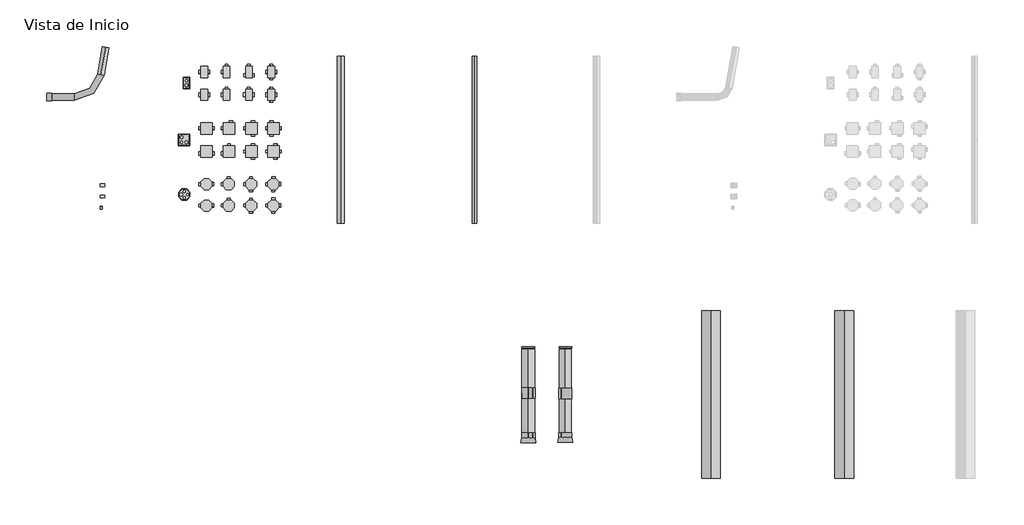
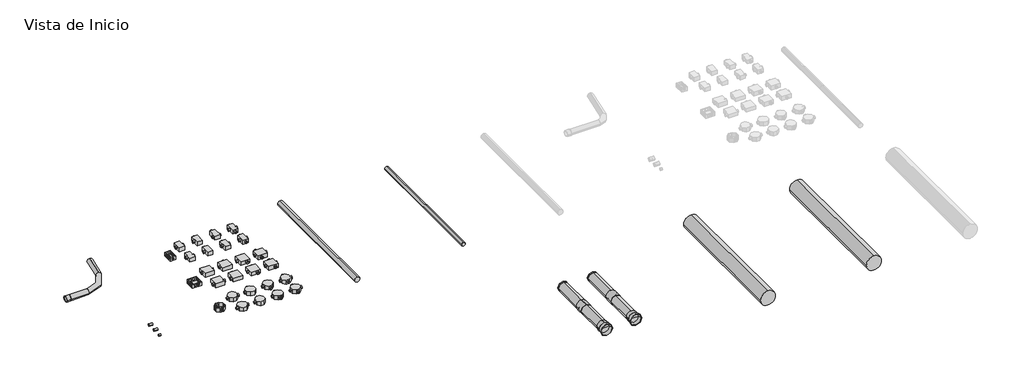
# One storey, part 1 of 2: 104 cable carrier fittings, 8 cable carrier segments.
"""IFC4 building model written with IfcOpenShell, lengths in millimetres."""

from ifc_helpers import new_model, si_unit, point, frame, frame_2d, origin, place, context, project, spatial, circle_curve, trimmed, segment, composite_curve, outline, extrude, transform, mapped, element, save
from components import cable_carrier_fitting_60fd3d04, cable_carrier_fitting_629d5e2b, cable_carrier_fitting_0bd2d3bd, sch40_a225065a, sch40_529ea7d7, sch40_e715ed77, sch40_e125807a, sch40_0bdad339, sch40_e9edfee1, sch40_2f5201ad, sch40_9a32e9d7, sch40_1c53443b, sch40_9d175e18, tdp_cfcb37cc, tdp_9431bb59, tdp_ba480966, tl_5f5f7a51, tl_a7b347dc, tl_4cd5a705, tl_ba489bf2, tl_f0d449e0, tl_b9d03b8a

model = new_model("IFC4")

# Units and contexts
model_context = context("Model", 3, world=origin())
ifc_project = project(units=[si_unit("LENGTHUNIT", "METRE", prefix="MILLI")], contexts=[model_context])

# Site, building, storey
site = spatial("IfcSite", under=ifc_project)
building = spatial("IfcBuilding", under=site)
storey = spatial("IfcBuildingStorey", under=building, Name="Vista de Inicio", Elevation=0.0)

# Cable carrier fittings
placement = place(None, origin())
cable_carrier_fitting_shape = cable_carrier_fitting_60fd3d04(model_context)
element("IfcCableCarrierFitting", 1, ObjectType="PavcoWavin_ConduitFittings_Union : EB y DB", at=placement, inside=storey, context=model_context, shape_type="MappedRepresentation", body=[
    mapped(cable_carrier_fitting_shape, transform((4096.7332292, 519.0610752, 0.0), x_axis=(0.0, -1.0, 0.0), y_axis=(1.0, 0.0, 0.0), z_axis=(0.0, 0.0, 1.0))),
])
cable_carrier_fitting_2_shape = cable_carrier_fitting_629d5e2b(model_context)
element("IfcCableCarrierFitting", 2, ObjectType="PavcoWavin_ConduitFittings_Tapon : EB y DB", at=placement, inside=storey, context=model_context, shape_type="MappedRepresentation", body=[
    mapped(cable_carrier_fitting_2_shape, transform((4096.7332292, 912.8807549, 0.0), x_axis=(0.0, 1.0, 0.0), y_axis=(1.0, 0.0, 0.0), z_axis=(0.0, 0.0, -1.0))),
])
cable_carrier_fitting_3_shape = cable_carrier_fitting_0bd2d3bd(model_context)
element("IfcCableCarrierFitting", 3, ObjectType="PavcoWavin_ConduitFittings_TerminalCampana_Ducto : EB y DB", at=placement, inside=storey, context=model_context, shape_type="MappedRepresentation", body=[
    mapped(cable_carrier_fitting_3_shape, transform((4096.7332292, 119.206607, 0.0), x_axis=(0.0, -1.0, 0.0), y_axis=(1.0, 0.0, 0.0), z_axis=(0.0, 0.0, 1.0))),
])
sch40_shape = sch40_a225065a(model_context)
element("IfcCableCarrierFitting", 4, ObjectType="PavcoWavin_ConduitFittings_ZnoUsarAdaptadorTerminal : SCH40", at=placement, inside=storey, context=model_context, shape_type="MappedRepresentation", body=[
    mapped(sch40_shape, transform((1410.1820166, 2442.2693837, 0.0), x_axis=(0.0, 1.0, 0.0), y_axis=(-1.0, 0.0, 0.0), z_axis=(0.0, 0.0, 1.0))),
])
element("IfcCableCarrierFitting", 5, ObjectType="PavcoWavin_ConduitFittings_ZnoUsarAdaptadorTerminal : SCH40", at=placement, inside=storey, context=model_context, shape_type="MappedRepresentation", body=[
    mapped(sch40_shape, transform((1360.6820166, 2392.7693837, 0.0), x_axis=(-1.0, 0.0, 0.0), y_axis=(0.0, -1.0, 0.0), z_axis=(0.0, 0.0, 1.0))),
])
element("IfcCableCarrierFitting", 6, ObjectType="PavcoWavin_ConduitFittings_ZnoUsarAdaptadorTerminal : SCH40", at=placement, inside=storey, context=model_context, shape_type="MappedRepresentation", body=[
    mapped(sch40_shape, transform((1760.6820166, 2392.7693837, 0.0), x_axis=(-1.0, 0.0, 0.0), y_axis=(0.0, -1.0, 0.0), z_axis=(0.0, 0.0, 1.0))),
])
element("IfcCableCarrierFitting", 7, ObjectType="PavcoWavin_ConduitFittings_ZnoUsarAdaptadorTerminal : SCH40", at=placement, inside=storey, context=model_context, shape_type="MappedRepresentation", body=[
    mapped(sch40_shape, transform((1810.1820166, 2343.2693837, 0.0), x_axis=(0.0, -1.0, 0.0), y_axis=(1.0, 0.0, 0.0), z_axis=(0.0, 0.0, 1.0))),
])
element("IfcCableCarrierFitting", 8, ObjectType="PavcoWavin_ConduitFittings_ZnoUsarAdaptadorTerminal : SCH40", at=placement, inside=storey, context=model_context, shape_type="MappedRepresentation", body=[
    mapped(sch40_shape, transform((1610.1820166, 2442.2693837, 0.0), x_axis=(0.0, 1.0000000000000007, 0.0), y_axis=(-1.0000000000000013, 0.0, 0.0), z_axis=(0.0, 0.0, 1.0000000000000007))),
])
element("IfcCableCarrierFitting", 9, ObjectType="PavcoWavin_ConduitFittings_ZnoUsarAdaptadorTerminal : SCH40", at=placement, inside=storey, context=model_context, shape_type="MappedRepresentation", body=[
    mapped(sch40_shape, transform((1560.6820166, 2392.7693837, 0.0), x_axis=(-1.0000000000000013, 0.0, 0.0), y_axis=(0.0, -1.0000000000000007, 0.0), z_axis=(0.0, 0.0, 1.0000000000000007))),
])
element("IfcCableCarrierFitting", 10, ObjectType="PavcoWavin_ConduitFittings_ZnoUsarAdaptadorTerminal : SCH40", at=placement, inside=storey, context=model_context, shape_type="MappedRepresentation", body=[
    mapped(sch40_shape, transform((1360.6820166, 2892.7174318, 0.0), x_axis=(-1.0, 0.0, 0.0), y_axis=(0.0, -1.0, 0.0), z_axis=(0.0, 0.0, 1.0))),
])
element("IfcCableCarrierFitting", 11, ObjectType="PavcoWavin_ConduitFittings_ZnoUsarAdaptadorTerminal : SCH40", at=placement, inside=storey, context=model_context, shape_type="MappedRepresentation", body=[
    mapped(sch40_shape, transform((1160.6820166, 2892.7174318, 0.0), x_axis=(-1.0, 0.0, 0.0), y_axis=(0.0, -1.0, 0.0), z_axis=(0.0, 0.0, 1.0))),
])
element("IfcCableCarrierFitting", 12, ObjectType="PavcoWavin_ConduitFittings_ZnoUsarAdaptadorTerminal : SCH40", at=placement, inside=storey, context=model_context, shape_type="MappedRepresentation", body=[
    mapped(sch40_shape, transform((1263.7820166, 2892.7174318, 0.0), x_axis=(1.0, 0.0, 0.0), y_axis=(0.0, 1.0, 0.0), z_axis=(0.0, 0.0, 1.0))),
])
element("IfcCableCarrierFitting", 13, ObjectType="PavcoWavin_ConduitFittings_ZnoUsarAdaptadorTerminal : SCH40", at=placement, inside=storey, context=model_context, shape_type="MappedRepresentation", body=[
    mapped(sch40_shape, transform((1560.6820166, 2892.7174318, 0.0), x_axis=(-1.0000000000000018, 0.0, 0.0), y_axis=(0.0, 1.0000000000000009, 0.0), z_axis=(0.0, 0.0, -1.0000000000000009))),
])
element("IfcCableCarrierFitting", 14, ObjectType="PavcoWavin_ConduitFittings_ZnoUsarAdaptadorTerminal : SCH40", at=placement, inside=storey, context=model_context, shape_type="MappedRepresentation", body=[
    mapped(sch40_shape, transform((1863.7820166, 2892.7174318, 0.0), x_axis=(1.0, 0.0, 0.0), y_axis=(0.0, 1.0, 0.0), z_axis=(0.0, 0.0, 1.0))),
])
element("IfcCableCarrierFitting", 15, ObjectType="PavcoWavin_ConduitFittings_ZnoUsarAdaptadorTerminal : SCH40", at=placement, inside=storey, context=model_context, shape_type="MappedRepresentation", body=[
    mapped(sch40_shape, transform((1760.6820166, 2892.7174318, 0.0), x_axis=(-1.0, 0.0, 0.0), y_axis=(0.0, -1.0, 0.0), z_axis=(0.0, 0.0, 1.0))),
])
element("IfcCableCarrierFitting", 16, ObjectType="PavcoWavin_ConduitFittings_ZnoUsarAdaptadorTerminal : SCH40", at=placement, inside=storey, context=model_context, shape_type="MappedRepresentation", body=[
    mapped(sch40_shape, transform((1590.6820166, 3449.0171975, 0.0), x_axis=(0.0, 1.0, 0.0), y_axis=(-1.0, 0.0, 0.0), z_axis=(0.0, 0.0, 1.0))),
])
element("IfcCableCarrierFitting", 17, ObjectType="PavcoWavin_ConduitFittings_ZnoUsarAdaptadorTerminal : SCH40", at=placement, inside=storey, context=model_context, shape_type="MappedRepresentation", body=[
    mapped(sch40_shape, transform((1620.6820166, 3369.5171975, 0.0), x_axis=(1.0, 0.0, 0.0), y_axis=(0.0, 1.0, 0.0), z_axis=(0.0, 0.0, 1.0))),
])
element("IfcCableCarrierFitting", 18, ObjectType="PavcoWavin_ConduitFittings_ZnoUsarAdaptadorTerminal : SCH40", at=placement, inside=storey, context=model_context, shape_type="MappedRepresentation", body=[
    mapped(sch40_shape, transform((1560.6820166, 3369.5171975, 0.0), x_axis=(-1.0, 0.0, 0.0), y_axis=(0.0, -1.0, 0.0), z_axis=(0.0, 0.0, 1.0))),
])
element("IfcCableCarrierFitting", 19, ObjectType="PavcoWavin_ConduitFittings_ZnoUsarAdaptadorTerminal : SCH40", at=placement, inside=storey, context=model_context, shape_type="MappedRepresentation", body=[
    mapped(sch40_shape, transform((1790.6820166, 3346.0171975, 0.0), x_axis=(0.0, -1.0000000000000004, 0.0), y_axis=(1.0000000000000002, 0.0, 0.0), z_axis=(0.0, 0.0, 1.0000000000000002))),
])
element("IfcCableCarrierFitting", 20, ObjectType="PavcoWavin_ConduitFittings_ZnoUsarAdaptadorTerminal : SCH40", at=placement, inside=storey, context=model_context, shape_type="MappedRepresentation", body=[
    mapped(sch40_shape, transform((1790.6820166, 3449.0171975, 0.0), x_axis=(0.0, 1.0000000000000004, 0.0), y_axis=(-1.0000000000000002, 0.0, 0.0), z_axis=(0.0, 0.0, 1.0000000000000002))),
])
element("IfcCableCarrierFitting", 21, ObjectType="PavcoWavin_ConduitFittings_ZnoUsarAdaptadorTerminal : SCH40", at=placement, inside=storey, context=model_context, shape_type="MappedRepresentation", body=[
    mapped(sch40_shape, transform((1390.6820166, 3449.0171975, 0.0), x_axis=(0.0, 1.0, 0.0), y_axis=(-1.0, 0.0, 0.0), z_axis=(0.0, 0.0, 1.0))),
])
element("IfcCableCarrierFitting", 22, ObjectType="PavcoWavin_ConduitFittings_ZnoUsarAdaptadorTerminal : SCH40", at=placement, inside=storey, context=model_context, shape_type="MappedRepresentation", body=[
    mapped(sch40_shape, transform((1160.6820166, 2392.7693837, 0.0), x_axis=(-1.0, 0.0, 0.0), y_axis=(0.0, -1.0, 0.0), z_axis=(0.0, 0.0, 1.0))),
])
sch40_2_shape = sch40_529ea7d7(model_context)
element("IfcCableCarrierFitting", 23, ObjectType="PavcoWavin_ConduitFittings_CajaOctagonal_Codo : SCH40", at=placement, inside=storey, context=model_context, shape_type="MappedRepresentation", body=[
    mapped(sch40_2_shape, transform((1410.1820166, 2392.7693837, 0.0), x_axis=(1.0, 0.0, 0.0), y_axis=(0.0, 1.0, 0.0), z_axis=(0.0, 0.0, 1.0))),
])
element("IfcCableCarrierFitting", 24, ObjectType="PavcoWavin_ConduitFittings_CajaOctagonal_Tee : SCH40", at=placement, inside=storey, context=model_context, shape_type="MappedRepresentation", body=[
    mapped(sch40_2_shape, transform((1610.1820166, 2392.7693837, 0.0), x_axis=(0.0, -1.0000000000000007, 0.0), y_axis=(1.0000000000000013, 0.0, 0.0), z_axis=(0.0, 0.0, 1.0000000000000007))),
])
element("IfcCableCarrierFitting", 25, ObjectType="PavcoWavin_ConduitFittings_CajaOctagonal_Cruz : SCH40", at=placement, inside=storey, context=model_context, shape_type="MappedRepresentation", body=[
    mapped(sch40_2_shape, transform((1810.1820166, 2392.7693837, 0.0), x_axis=(1.0, 0.0, 0.0), y_axis=(0.0, 1.0, 0.0), z_axis=(0.0, 0.0, 1.0))),
])
sch40_3_shape = sch40_e715ed77(model_context)
element("IfcCableCarrierFitting", 26, ObjectType="PavcoWavin_ConduitFittings_AdaptadorTerminal_Union : SCH40", at=placement, inside=storey, context=model_context, shape_type="MappedRepresentation", body=[
    mapped(sch40_3_shape, transform((273.2288935, 2181.3199499, 0.0), x_axis=(1.0, 0.0, 0.0), y_axis=(0.0, 1.0, 0.0), z_axis=(0.0, 0.0, 1.0))),
])
sch40_4_shape = sch40_e125807a(model_context)
element("IfcCableCarrierFitting", 27, ObjectType="PavcoWavin_ConduitFittings_CajaDoble_Codo : SCH40", at=placement, inside=storey, context=model_context, shape_type="MappedRepresentation", body=[
    mapped(sch40_4_shape, transform((1429.7320166, 2892.7174318, 0.0), x_axis=(1.0, 0.0, 0.0), y_axis=(0.0, 1.0, 0.0), z_axis=(0.0, 0.0, 1.0))),
])
sch40_5_shape = sch40_0bdad339(model_context)
element("IfcCableCarrierFitting", 28, ObjectType="PavcoWavin_ConduitFittings_CajaDoble_Cruz : SCH40", at=placement, inside=storey, context=model_context, shape_type="MappedRepresentation", body=[
    mapped(sch40_5_shape, transform((1794.7320166, 2892.7174318, 0.0), x_axis=(0.0, 1.0, 0.0), y_axis=(-1.0, 0.0, 0.0), z_axis=(0.0, 0.0, 1.0))),
])
element("IfcCableCarrierFitting", 29, ObjectType="PavcoWavin_ConduitFittings_CajaDoble_Tee : SCH40", at=placement, inside=storey, context=model_context, shape_type="MappedRepresentation", body=[
    mapped(sch40_5_shape, transform((1629.7320166, 2892.7174318, 0.0), x_axis=(0.0, 1.0000000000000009, 0.0), y_axis=(1.0000000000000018, 0.0, 0.0), z_axis=(0.0, 0.0, -1.0000000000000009))),
])
sch40_6_shape = sch40_e9edfee1(model_context)
element("IfcCableCarrierFitting", 30, ObjectType="PavcoWavin_ConduitFittings_CajaDoble_Union : SCH40", at=placement, inside=storey, context=model_context, shape_type="MappedRepresentation", body=[
    mapped(sch40_6_shape, transform((1212.2320166, 2892.7174318, 0.0), x_axis=(-1.0, 0.0, 0.0), y_axis=(0.0, -1.0, 0.0), z_axis=(0.0, 0.0, 1.0))),
])
element("IfcCableCarrierFitting", 31, ObjectType="PavcoWavin_ConduitFittings_CajaOctagonal_Transicion : SCH40", at=placement, inside=storey, context=model_context, shape_type="MappedRepresentation", body=[
    mapped(sch40_2_shape, transform((1210.1820166, 2392.7693837, 0.0), x_axis=(1.0, 0.0, 0.0), y_axis=(0.0, 1.0, 0.0), z_axis=(0.0, 0.0, 1.0))),
])
sch40_7_shape = sch40_2f5201ad(model_context)
element("IfcCableCarrierFitting", 32, ObjectType="PavcoWavin_ConduitFittings_CajaSencilla_Codo : SCH40", at=placement, inside=storey, context=model_context, shape_type="MappedRepresentation", body=[
    mapped(sch40_7_shape, transform((1390.6820166, 3397.5171975, 0.0), x_axis=(1.0, 0.0, 0.0), y_axis=(0.0, 1.0, 0.0), z_axis=(0.0, 0.0, 1.0))),
])
element("IfcCableCarrierFitting", 33, ObjectType="PavcoWavin_ConduitFittings_CajaSencilla_Cruz : SCH40", at=placement, inside=storey, context=model_context, shape_type="MappedRepresentation", body=[
    mapped(sch40_7_shape, transform((1790.6820166, 3397.5171975, 0.0), x_axis=(1.0000000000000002, 0.0, 0.0), y_axis=(0.0, 1.0000000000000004, 0.0), z_axis=(0.0, 0.0, 1.0000000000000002))),
])
sch40_8_shape = sch40_9a32e9d7(model_context)
element("IfcCableCarrierFitting", 34, ObjectType="PavcoWavin_ConduitFittings_CajaSencilla_Tee : SCH40", at=placement, inside=storey, context=model_context, shape_type="MappedRepresentation", body=[
    mapped(sch40_8_shape, transform((1590.6820166, 3369.5171975, 0.0), x_axis=(-1.0, 0.0, 0.0), y_axis=(0.0, -1.0, 0.0), z_axis=(0.0, 0.0, 1.0))),
])
sch40_9_shape = sch40_1c53443b(model_context)
element("IfcCableCarrierFitting", 35, ObjectType="PavcoWavin_ConduitFittings_ZnoUsarAdaptadorTerminal : SCH40", at=placement, inside=storey, context=model_context, shape_type="MappedRepresentation", body=[
    mapped(sch40_9_shape, transform((1859.6820166, 2392.7693837, 0.0), x_axis=(1.0, 0.0, 0.0), y_axis=(0.0, 1.0, 0.0), z_axis=(0.0, 0.0, 1.0))),
])
element("IfcCableCarrierFitting", 36, ObjectType="PavcoWavin_ConduitFittings_ZnoUsarAdaptadorTerminal : SCH40", at=placement, inside=storey, context=model_context, shape_type="MappedRepresentation", body=[
    mapped(sch40_9_shape, transform((1810.1820166, 2442.2693837, 0.0), x_axis=(0.0, 1.0, 0.0), y_axis=(-1.0, 0.0, 0.0), z_axis=(0.0, 0.0, 1.0))),
])
element("IfcCableCarrierFitting", 37, ObjectType="PavcoWavin_ConduitFittings_ZnoUsarAdaptadorTerminal : SCH40", at=placement, inside=storey, context=model_context, shape_type="MappedRepresentation", body=[
    mapped(sch40_9_shape, transform((1610.1820166, 2343.2693837, 0.0), x_axis=(0.0, -1.0000000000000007, 0.0), y_axis=(1.0000000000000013, 0.0, 0.0), z_axis=(0.0, 0.0, 1.0000000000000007))),
])
element("IfcCableCarrierFitting", 38, ObjectType="PavcoWavin_ConduitFittings_ZnoUsarAdaptadorTerminal : SCH40", at=placement, inside=storey, context=model_context, shape_type="MappedRepresentation", body=[
    mapped(sch40_9_shape, transform((1429.7320166, 2944.2674318, 0.0), x_axis=(0.0, 1.0, 0.0), y_axis=(-1.0, 0.0, 0.0), z_axis=(0.0, 0.0, 1.0))),
])
element("IfcCableCarrierFitting", 39, ObjectType="PavcoWavin_ConduitFittings_ZnoUsarAdaptadorTerminal : SCH40", at=placement, inside=storey, context=model_context, shape_type="MappedRepresentation", body=[
    mapped(sch40_9_shape, transform((1629.7320166, 2944.2674318, 0.0), x_axis=(0.0, 1.0000000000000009, 0.0), y_axis=(1.0000000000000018, 0.0, 0.0), z_axis=(0.0, 0.0, -1.0000000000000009))),
])
element("IfcCableCarrierFitting", 40, ObjectType="PavcoWavin_ConduitFittings_ZnoUsarAdaptadorTerminal : SCH40", at=placement, inside=storey, context=model_context, shape_type="MappedRepresentation", body=[
    mapped(sch40_9_shape, transform((1629.7320166, 2841.1674318, 0.0), x_axis=(0.0, -1.0000000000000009, 0.0), y_axis=(-1.0000000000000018, 0.0, 0.0), z_axis=(0.0, 0.0, -1.0000000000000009))),
])
element("IfcCableCarrierFitting", 41, ObjectType="PavcoWavin_ConduitFittings_ZnoUsarAdaptadorTerminal : SCH40", at=placement, inside=storey, context=model_context, shape_type="MappedRepresentation", body=[
    mapped(sch40_9_shape, transform((1794.7320166, 2944.2674318, 0.0), x_axis=(0.0, 1.0, 0.0), y_axis=(-1.0, 0.0, 0.0), z_axis=(0.0, 0.0, 1.0))),
])
element("IfcCableCarrierFitting", 42, ObjectType="PavcoWavin_ConduitFittings_ZnoUsarAdaptadorTerminal : SCH40", at=placement, inside=storey, context=model_context, shape_type="MappedRepresentation", body=[
    mapped(sch40_9_shape, transform((1794.7320166, 2841.1674318, 0.0), x_axis=(0.0, -1.0, 0.0), y_axis=(1.0, 0.0, 0.0), z_axis=(0.0, 0.0, 1.0))),
])
element("IfcCableCarrierFitting", 43, ObjectType="PavcoWavin_ConduitFittings_ZnoUsarAdaptadorTerminal : SCH40", at=placement, inside=storey, context=model_context, shape_type="MappedRepresentation", body=[
    mapped(sch40_9_shape, transform((1760.6820166, 3397.5171975, 0.0), x_axis=(-1.0000000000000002, 0.0, 0.0), y_axis=(0.0, -1.0000000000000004, 0.0), z_axis=(0.0, 0.0, 1.0000000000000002))),
])
element("IfcCableCarrierFitting", 44, ObjectType="PavcoWavin_ConduitFittings_ZnoUsarAdaptadorTerminal : SCH40", at=placement, inside=storey, context=model_context, shape_type="MappedRepresentation", body=[
    mapped(sch40_9_shape, transform((1820.6820166, 3397.5171975, 0.0), x_axis=(1.0000000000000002, 0.0, 0.0), y_axis=(0.0, 1.0000000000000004, 0.0), z_axis=(0.0, 0.0, 1.0000000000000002))),
])
element("IfcCableCarrierFitting", 45, ObjectType="PavcoWavin_ConduitFittings_ZnoUsarAdaptadorTerminal : SCH40", at=placement, inside=storey, context=model_context, shape_type="MappedRepresentation", body=[
    mapped(sch40_9_shape, transform((1360.6820166, 3397.5171975, 0.0), x_axis=(-1.0, 0.0, 0.0), y_axis=(0.0, -1.0, 0.0), z_axis=(0.0, 0.0, 1.0))),
])
element("IfcCableCarrierFitting", 46, ObjectType="PavcoWavin_ConduitFittings_ZnoUsarAdaptadorTerminal : SCH40", at=placement, inside=storey, context=model_context, shape_type="MappedRepresentation", body=[
    mapped(sch40_9_shape, transform((1160.6820166, 3397.5171975, 0.0), x_axis=(-1.0, 0.0, 0.0), y_axis=(0.0, -1.0, 0.0), z_axis=(0.0, 0.0, 1.0))),
])
element("IfcCableCarrierFitting", 47, ObjectType="PavcoWavin_ConduitFittings_ZnoUsarAdaptadorTerminal : SCH40", at=placement, inside=storey, context=model_context, shape_type="MappedRepresentation", body=[
    mapped(sch40_9_shape, transform((1220.6820166, 3397.5171975, 0.0), x_axis=(1.0, 0.0, 0.0), y_axis=(0.0, 1.0, 0.0), z_axis=(0.0, 0.0, 1.0))),
])
element("IfcCableCarrierFitting", 48, ObjectType="PavcoWavin_ConduitFittings_ZnoUsarAdaptadorTerminal : SCH40", at=placement, inside=storey, context=model_context, shape_type="MappedRepresentation", body=[
    mapped(sch40_9_shape, transform((1259.6820166, 2392.7693837, 0.0), x_axis=(1.0, 0.0, 0.0), y_axis=(0.0, 1.0, 0.0), z_axis=(0.0, 0.0, 1.0))),
])
element("IfcCableCarrierFitting", 49, ObjectType="PavcoWavin_ConduitFittings_CajaSencilla_Union : SCH40", at=placement, inside=storey, context=model_context, shape_type="MappedRepresentation", body=[
    mapped(sch40_7_shape, transform((1190.6820166, 3397.5171975, 0.0), x_axis=(-1.0, 0.0, 0.0), y_axis=(0.0, -1.0, 0.0), z_axis=(0.0, 0.0, 1.0))),
])
sch40_10_shape = sch40_9d175e18(model_context)
element("IfcCableCarrierFitting", 50, ObjectType="PavcoWavin_ConduitFittings_Union : SCH40", at=placement, inside=storey, context=model_context, shape_type="MappedRepresentation", body=[
    mapped(sch40_10_shape, transform((277.6388935, 2281.3199499, 0.0), x_axis=(-1.0, 0.0, 0.0), y_axis=(0.0, -1.0, 0.0), z_axis=(0.0, 0.0, 1.0))),
])
tdp_shape = tdp_cfcb37cc(model_context)
element("IfcCableCarrierFitting", 51, ObjectType="PavcoWavin_ConduitFittings_Union : TDP", at=placement, inside=storey, context=model_context, shape_type="MappedRepresentation", body=[
    mapped(tdp_shape, transform((4428.9885381, 515.8860752, 0.0), x_axis=(0.0, -1.0, 0.0), y_axis=(1.0, 0.0, 0.0), z_axis=(0.0, 0.0, 1.0))),
])
tdp_2_shape = tdp_9431bb59(model_context)
element("IfcCableCarrierFitting", 52, ObjectType="PavcoWavin_ConduitFittings_Tapon : TDP", at=placement, inside=storey, context=model_context, shape_type="MappedRepresentation", body=[
    mapped(tdp_2_shape, transform((4428.9885381, 912.8807549, 0.0), x_axis=(0.0, 1.0, 0.0), y_axis=(1.0, 0.0, 0.0), z_axis=(0.0, 0.0, -1.0))),
])
tdp_3_shape = tdp_ba480966(model_context)
element("IfcCableCarrierFitting", 53, ObjectType="PavcoWavin_ConduitFittings_TerminalCampana_Ducto : TDP", at=placement, inside=storey, context=model_context, shape_type="MappedRepresentation", body=[
    mapped(tdp_3_shape, transform((4428.9885381, 122.381607, 0.0), x_axis=(0.0, -1.0, 0.0), y_axis=(1.0, 0.0, 0.0), z_axis=(0.0, 0.0, 1.0))),
])
element("IfcCableCarrierFitting", 54, ObjectType="PavcoWavin_ConduitFittings_ZnoUsarAdaptadorTerminal : TL", at=placement, inside=storey, context=model_context, shape_type="MappedRepresentation", body=[
    mapped(sch40_shape, transform((1410.1820166, 2249.705647, 0.0), x_axis=(0.0, 1.0, 0.0), y_axis=(-1.0, 0.0, 0.0), z_axis=(0.0, 0.0, 1.0))),
])
element("IfcCableCarrierFitting", 55, ObjectType="PavcoWavin_ConduitFittings_ZnoUsarAdaptadorTerminal : TL", at=placement, inside=storey, context=model_context, shape_type="MappedRepresentation", body=[
    mapped(sch40_shape, transform((1360.6820166, 2200.205647, 0.0), x_axis=(-1.0, 0.0, 0.0), y_axis=(0.0, -1.0, 0.0), z_axis=(0.0, 0.0, 1.0))),
])
element("IfcCableCarrierFitting", 56, ObjectType="PavcoWavin_ConduitFittings_ZnoUsarAdaptadorTerminal : TL", at=placement, inside=storey, context=model_context, shape_type="MappedRepresentation", body=[
    mapped(sch40_shape, transform((1760.6820166, 2200.205647, 0.0), x_axis=(-1.0, 0.0, 0.0), y_axis=(0.0, -1.0, 0.0), z_axis=(0.0, 0.0, 1.0))),
])
element("IfcCableCarrierFitting", 57, ObjectType="PavcoWavin_ConduitFittings_ZnoUsarAdaptadorTerminal : TL", at=placement, inside=storey, context=model_context, shape_type="MappedRepresentation", body=[
    mapped(sch40_shape, transform((1810.1820166, 2150.705647, 0.0), x_axis=(0.0, -1.0, 0.0), y_axis=(1.0, 0.0, 0.0), z_axis=(0.0, 0.0, 1.0))),
])
element("IfcCableCarrierFitting", 58, ObjectType="PavcoWavin_ConduitFittings_ZnoUsarAdaptadorTerminal : TL", at=placement, inside=storey, context=model_context, shape_type="MappedRepresentation", body=[
    mapped(sch40_shape, transform((1610.1820166, 2249.705647, 0.0), x_axis=(0.0, 1.0000000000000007, 0.0), y_axis=(-1.0000000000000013, 0.0, 0.0), z_axis=(0.0, 0.0, 1.0000000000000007))),
])
element("IfcCableCarrierFitting", 59, ObjectType="PavcoWavin_ConduitFittings_ZnoUsarAdaptadorTerminal : TL", at=placement, inside=storey, context=model_context, shape_type="MappedRepresentation", body=[
    mapped(sch40_shape, transform((1560.6820166, 2200.205647, 0.0), x_axis=(-1.0000000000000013, 0.0, 0.0), y_axis=(0.0, -1.0000000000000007, 0.0), z_axis=(0.0, 0.0, 1.0000000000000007))),
])
element("IfcCableCarrierFitting", 60, ObjectType="PavcoWavin_ConduitFittings_ZnoUsarAdaptadorTerminal : TL", at=placement, inside=storey, context=model_context, shape_type="MappedRepresentation", body=[
    mapped(sch40_shape, transform((1412.2320166, 2736.9594925, 0.0), x_axis=(0.0, 1.0, 0.0), y_axis=(-1.0, 0.0, 0.0), z_axis=(0.0, 0.0, 1.0))),
])
element("IfcCableCarrierFitting", 61, ObjectType="PavcoWavin_ConduitFittings_ZnoUsarAdaptadorTerminal : TL", at=placement, inside=storey, context=model_context, shape_type="MappedRepresentation", body=[
    mapped(sch40_shape, transform((1760.6820166, 2685.4094925, 0.0), x_axis=(-1.0, 0.0, 0.0), y_axis=(0.0, 1.0, 0.0), z_axis=(0.0, 0.0, -1.0))),
])
element("IfcCableCarrierFitting", 62, ObjectType="PavcoWavin_ConduitFittings_ZnoUsarAdaptadorTerminal : TL", at=placement, inside=storey, context=model_context, shape_type="MappedRepresentation", body=[
    mapped(sch40_shape, transform((1863.7820166, 2685.4094925, 0.0), x_axis=(1.0, 0.0, 0.0), y_axis=(0.0, -1.0, 0.0), z_axis=(0.0, 0.0, -1.0))),
])
element("IfcCableCarrierFitting", 63, ObjectType="PavcoWavin_ConduitFittings_ZnoUsarAdaptadorTerminal : TL", at=placement, inside=storey, context=model_context, shape_type="MappedRepresentation", body=[
    mapped(sch40_shape, transform((1560.6820166, 2685.4094925, 0.0), x_axis=(-1.0, 0.0, 0.0), y_axis=(0.0, 1.0, 0.0), z_axis=(0.0, 0.0, -1.0))),
])
element("IfcCableCarrierFitting", 64, ObjectType="PavcoWavin_ConduitFittings_ZnoUsarAdaptadorTerminal : TL", at=placement, inside=storey, context=model_context, shape_type="MappedRepresentation", body=[
    mapped(sch40_shape, transform((1390.6820166, 3245.2693837, 0.0), x_axis=(0.0, 1.0, 0.0), y_axis=(-1.0, 0.0, 0.0), z_axis=(0.0, 0.0, 1.0))),
])
element("IfcCableCarrierFitting", 65, ObjectType="PavcoWavin_ConduitFittings_ZnoUsarAdaptadorTerminal : TL", at=placement, inside=storey, context=model_context, shape_type="MappedRepresentation", body=[
    mapped(sch40_shape, transform((1590.6820166, 3245.2693837, 0.0), x_axis=(0.0, 1.0000000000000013, 0.0), y_axis=(-1.0000000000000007, 0.0, 0.0), z_axis=(0.0, 0.0, 1.0000000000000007))),
])
element("IfcCableCarrierFitting", 66, ObjectType="PavcoWavin_ConduitFittings_ZnoUsarAdaptadorTerminal : TL", at=placement, inside=storey, context=model_context, shape_type="MappedRepresentation", body=[
    mapped(sch40_shape, transform((1790.6820166, 3142.2693837, 0.0), x_axis=(0.0, -1.0000000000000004, 0.0), y_axis=(1.0000000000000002, 0.0, 0.0), z_axis=(0.0, 0.0, 1.0000000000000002))),
])
element("IfcCableCarrierFitting", 67, ObjectType="PavcoWavin_ConduitFittings_ZnoUsarAdaptadorTerminal : TL", at=placement, inside=storey, context=model_context, shape_type="MappedRepresentation", body=[
    mapped(sch40_shape, transform((1790.6820166, 3245.2693837, 0.0), x_axis=(0.0, 1.0000000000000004, 0.0), y_axis=(-1.0000000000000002, 0.0, 0.0), z_axis=(0.0, 0.0, 1.0000000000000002))),
])
element("IfcCableCarrierFitting", 68, ObjectType="PavcoWavin_ConduitFittings_ZnoUsarAdaptadorTerminal : TL", at=placement, inside=storey, context=model_context, shape_type="MappedRepresentation", body=[
    mapped(sch40_shape, transform((1160.6820166, 2200.205647, 0.0), x_axis=(-1.0, 0.0, 0.0), y_axis=(0.0, -1.0, 0.0), z_axis=(0.0, 0.0, 1.0))),
])
element("IfcCableCarrierFitting", 69, ObjectType="PavcoWavin_ConduitFittings_CajaOctagonal_Codo : TL", at=placement, inside=storey, context=model_context, shape_type="MappedRepresentation", body=[
    mapped(sch40_2_shape, transform((1410.1820166, 2200.205647, 0.0), x_axis=(1.0, 0.0, 0.0), y_axis=(0.0, 1.0, 0.0), z_axis=(0.0, 0.0, 1.0))),
])
element("IfcCableCarrierFitting", 70, ObjectType="PavcoWavin_ConduitFittings_CajaOctagonal_Tee : TL", at=placement, inside=storey, context=model_context, shape_type="MappedRepresentation", body=[
    mapped(sch40_2_shape, transform((1610.1820166, 2200.205647, 0.0), x_axis=(0.0, -1.0000000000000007, 0.0), y_axis=(1.0000000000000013, 0.0, 0.0), z_axis=(0.0, 0.0, 1.0000000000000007))),
])
element("IfcCableCarrierFitting", 71, ObjectType="PavcoWavin_ConduitFittings_CajaOctagonal_Cruz : TL", at=placement, inside=storey, context=model_context, shape_type="MappedRepresentation", body=[
    mapped(sch40_2_shape, transform((1810.1820166, 2200.205647, 0.0), x_axis=(1.0, 0.0, 0.0), y_axis=(0.0, 1.0, 0.0), z_axis=(0.0, 0.0, 1.0))),
])
tl_shape = tl_5f5f7a51(model_context)
element("IfcCableCarrierFitting", 72, ObjectType="PavcoWavin_ConduitFittings_CajaSencilla_Multipuerto : TL", at=placement, inside=storey, context=model_context, shape_type="MappedRepresentation", body=[
    mapped(tl_shape, transform((1030.6170203, 3298.9939293, 0.0), x_axis=(0.0, 1.0000000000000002, 0.0), y_axis=(-1.0000000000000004, 0.0, 0.0), z_axis=(0.0, 0.0, 1.0000000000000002))),
])
tl_2_shape = tl_a7b347dc(model_context)
element("IfcCableCarrierFitting", 73, ObjectType="PavcoWavin_ConduitFittings_CajaOctagonal_Multipuerto : TL", at=placement, inside=storey, context=model_context, shape_type="MappedRepresentation", body=[
    mapped(tl_2_shape, transform((1011.1170203, 2299.205647, 0.0), x_axis=(1.0, 0.0, 0.0), y_axis=(0.0, 1.0, 0.0), z_axis=(0.0, 0.0, 1.0))),
])
tl_3_shape = tl_4cd5a705(model_context)
element("IfcCableCarrierFitting", 74, ObjectType="PavcoWavin_ConduitFittings_CajaDoble_Codo : TL", at=placement, inside=storey, context=model_context, shape_type="MappedRepresentation", body=[
    mapped(tl_3_shape, transform((1412.2320166, 2667.9094925, 0.0), x_axis=(1.0, 0.0, 0.0), y_axis=(0.0, 1.0, 0.0), z_axis=(0.0, 0.0, 1.0))),
])
element("IfcCableCarrierFitting", 75, ObjectType="PavcoWavin_ConduitFittings_CajaDoble_Cruz : TL", at=placement, inside=storey, context=model_context, shape_type="MappedRepresentation", body=[
    mapped(sch40_5_shape, transform((1829.7320166, 2685.4094925, 0.0), x_axis=(0.0, 1.0, 0.0), y_axis=(1.0, 0.0, 0.0), z_axis=(0.0, 0.0, -1.0))),
])
tl_4_shape = tl_ba489bf2(model_context)
element("IfcCableCarrierFitting", 76, ObjectType="PavcoWavin_ConduitFittings_CajaDoble_Multipuerto : TL", at=placement, inside=storey, context=model_context, shape_type="MappedRepresentation", body=[
    mapped(tl_4_shape, transform((1009.0670203, 2790.2624699, 0.0), x_axis=(1.0, 0.0, 0.0), y_axis=(0.0, 1.0, 0.0), z_axis=(0.0, 0.0, 1.0))),
])
element("IfcCableCarrierFitting", 77, ObjectType="PavcoWavin_ConduitFittings_CajaDoble_Tee : TL", at=placement, inside=storey, context=model_context, shape_type="MappedRepresentation", body=[
    mapped(sch40_5_shape, transform((1629.7320166, 2685.4094925, 0.0), x_axis=(0.0, 1.0, 0.0), y_axis=(1.0, 0.0, 0.0), z_axis=(0.0, 0.0, -1.0))),
])
element("IfcCableCarrierFitting", 78, ObjectType="PavcoWavin_ConduitFittings_CajaDoble_Union : TL", at=placement, inside=storey, context=model_context, shape_type="MappedRepresentation", body=[
    mapped(tl_3_shape, transform((1212.2320166, 2667.9094925, 0.0), x_axis=(1.0, 0.0, 0.0), y_axis=(0.0, 1.0000000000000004, 0.0), z_axis=(0.0, 0.0, 1.0000000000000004))),
])
element("IfcCableCarrierFitting", 79, ObjectType="PavcoWavin_ConduitFittings_CajaOctagonal_Transicion : TL", at=placement, inside=storey, context=model_context, shape_type="MappedRepresentation", body=[
    mapped(sch40_2_shape, transform((1210.1820166, 2200.205647, 0.0), x_axis=(1.0, 0.0, 0.0), y_axis=(0.0, 1.0, 0.0), z_axis=(0.0, 0.0, 1.0))),
])
element("IfcCableCarrierFitting", 80, ObjectType="PavcoWavin_ConduitFittings_CajaSencilla_Codo : TL", at=placement, inside=storey, context=model_context, shape_type="MappedRepresentation", body=[
    mapped(sch40_7_shape, transform((1390.6820166, 3193.7693837, 0.0), x_axis=(1.0, 0.0, 0.0), y_axis=(0.0, 1.0, 0.0), z_axis=(0.0, 0.0, 1.0))),
])
element("IfcCableCarrierFitting", 81, ObjectType="PavcoWavin_ConduitFittings_CajaSencilla_Cruz : TL", at=placement, inside=storey, context=model_context, shape_type="MappedRepresentation", body=[
    mapped(sch40_7_shape, transform((1790.6820166, 3193.7693837, 0.0), x_axis=(1.0000000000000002, 0.0, 0.0), y_axis=(0.0, 1.0000000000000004, 0.0), z_axis=(0.0, 0.0, 1.0000000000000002))),
])
element("IfcCableCarrierFitting", 82, ObjectType="PavcoWavin_ConduitFittings_CajaSencilla_Tee : TL", at=placement, inside=storey, context=model_context, shape_type="MappedRepresentation", body=[
    mapped(sch40_7_shape, transform((1590.6820166, 3193.7693837, 0.0), x_axis=(-1.0000000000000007, 0.0, 0.0), y_axis=(0.0, -1.0000000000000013, 0.0), z_axis=(0.0, 0.0, 1.0000000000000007))),
])
element("IfcCableCarrierFitting", 83, ObjectType="PavcoWavin_ConduitFittings_ZnoUsarAdaptadorTerminal : TL", at=placement, inside=storey, context=model_context, shape_type="MappedRepresentation", body=[
    mapped(sch40_9_shape, transform((1859.6820166, 2200.205647, 0.0), x_axis=(1.0, 0.0, 0.0), y_axis=(0.0, 1.0, 0.0), z_axis=(0.0, 0.0, 1.0))),
])
element("IfcCableCarrierFitting", 84, ObjectType="PavcoWavin_ConduitFittings_ZnoUsarAdaptadorTerminal : TL", at=placement, inside=storey, context=model_context, shape_type="MappedRepresentation", body=[
    mapped(sch40_9_shape, transform((1810.1820166, 2249.705647, 0.0), x_axis=(0.0, 1.0, 0.0), y_axis=(-1.0, 0.0, 0.0), z_axis=(0.0, 0.0, 1.0))),
])
element("IfcCableCarrierFitting", 85, ObjectType="PavcoWavin_ConduitFittings_ZnoUsarAdaptadorTerminal : TL", at=placement, inside=storey, context=model_context, shape_type="MappedRepresentation", body=[
    mapped(sch40_9_shape, transform((1610.1820166, 2150.705647, 0.0), x_axis=(0.0, -1.0000000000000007, 0.0), y_axis=(1.0000000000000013, 0.0, 0.0), z_axis=(0.0, 0.0, 1.0000000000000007))),
])
element("IfcCableCarrierFitting", 86, ObjectType="PavcoWavin_ConduitFittings_ZnoUsarAdaptadorTerminal : TL", at=placement, inside=storey, context=model_context, shape_type="MappedRepresentation", body=[
    mapped(sch40_9_shape, transform((1360.6820166, 2667.9094925, 0.0), x_axis=(-1.0, 0.0, 0.0), y_axis=(0.0, -1.0, 0.0), z_axis=(0.0, 0.0, 1.0))),
])
element("IfcCableCarrierFitting", 87, ObjectType="PavcoWavin_ConduitFittings_ZnoUsarAdaptadorTerminal : TL", at=placement, inside=storey, context=model_context, shape_type="MappedRepresentation", body=[
    mapped(sch40_9_shape, transform((1263.7820166, 2667.9094925, 0.0), x_axis=(1.0, 0.0, 0.0), y_axis=(0.0, 1.0000000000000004, 0.0), z_axis=(0.0, 0.0, 1.0000000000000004))),
])
element("IfcCableCarrierFitting", 88, ObjectType="PavcoWavin_ConduitFittings_ZnoUsarAdaptadorTerminal : TL", at=placement, inside=storey, context=model_context, shape_type="MappedRepresentation", body=[
    mapped(sch40_9_shape, transform((1160.6820166, 2667.9094925, 0.0), x_axis=(-1.0, 0.0, 0.0), y_axis=(0.0, -1.0000000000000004, 0.0), z_axis=(0.0, 0.0, 1.0000000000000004))),
])
element("IfcCableCarrierFitting", 89, ObjectType="PavcoWavin_ConduitFittings_ZnoUsarAdaptadorTerminal : TL", at=placement, inside=storey, context=model_context, shape_type="MappedRepresentation", body=[
    mapped(sch40_9_shape, transform((1829.7320166, 2736.9594925, 0.0), x_axis=(0.0, 1.0, 0.0), y_axis=(1.0, 0.0, 0.0), z_axis=(0.0, 0.0, -1.0))),
])
element("IfcCableCarrierFitting", 90, ObjectType="PavcoWavin_ConduitFittings_ZnoUsarAdaptadorTerminal : TL", at=placement, inside=storey, context=model_context, shape_type="MappedRepresentation", body=[
    mapped(sch40_9_shape, transform((1829.7320166, 2633.8594925, 0.0), x_axis=(0.0, -1.0, 0.0), y_axis=(-1.0, 0.0, 0.0), z_axis=(0.0, 0.0, -1.0))),
])
element("IfcCableCarrierFitting", 91, ObjectType="PavcoWavin_ConduitFittings_ZnoUsarAdaptadorTerminal : TL", at=placement, inside=storey, context=model_context, shape_type="MappedRepresentation", body=[
    mapped(sch40_9_shape, transform((1629.7320166, 2736.9594925, 0.0), x_axis=(0.0, 1.0, 0.0), y_axis=(1.0, 0.0, 0.0), z_axis=(0.0, 0.0, -1.0))),
])
element("IfcCableCarrierFitting", 92, ObjectType="PavcoWavin_ConduitFittings_ZnoUsarAdaptadorTerminal : TL", at=placement, inside=storey, context=model_context, shape_type="MappedRepresentation", body=[
    mapped(sch40_9_shape, transform((1629.7320166, 2633.8594925, 0.0), x_axis=(0.0, -1.0, 0.0), y_axis=(-1.0, 0.0, 0.0), z_axis=(0.0, 0.0, -1.0))),
])
element("IfcCableCarrierFitting", 93, ObjectType="PavcoWavin_ConduitFittings_ZnoUsarAdaptadorTerminal : TL", at=placement, inside=storey, context=model_context, shape_type="MappedRepresentation", body=[
    mapped(sch40_9_shape, transform((1360.6820166, 3193.7693837, 0.0), x_axis=(-1.0, 0.0, 0.0), y_axis=(0.0, -1.0, 0.0), z_axis=(0.0, 0.0, 1.0))),
])
element("IfcCableCarrierFitting", 94, ObjectType="PavcoWavin_ConduitFittings_ZnoUsarAdaptadorTerminal : TL", at=placement, inside=storey, context=model_context, shape_type="MappedRepresentation", body=[
    mapped(sch40_9_shape, transform((1620.6820166, 3193.7693837, 0.0), x_axis=(1.0000000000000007, 0.0, 0.0), y_axis=(0.0, 1.0000000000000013, 0.0), z_axis=(0.0, 0.0, 1.0000000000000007))),
])
element("IfcCableCarrierFitting", 95, ObjectType="PavcoWavin_ConduitFittings_ZnoUsarAdaptadorTerminal : TL", at=placement, inside=storey, context=model_context, shape_type="MappedRepresentation", body=[
    mapped(sch40_9_shape, transform((1560.6820166, 3193.7693837, 0.0), x_axis=(-1.0000000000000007, 0.0, 0.0), y_axis=(0.0, -1.0000000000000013, 0.0), z_axis=(0.0, 0.0, 1.0000000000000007))),
])
element("IfcCableCarrierFitting", 96, ObjectType="PavcoWavin_ConduitFittings_ZnoUsarAdaptadorTerminal : TL", at=placement, inside=storey, context=model_context, shape_type="MappedRepresentation", body=[
    mapped(sch40_9_shape, transform((1760.6820166, 3193.7693837, 0.0), x_axis=(-1.0000000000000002, 0.0, 0.0), y_axis=(0.0, -1.0000000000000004, 0.0), z_axis=(0.0, 0.0, 1.0000000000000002))),
])
element("IfcCableCarrierFitting", 97, ObjectType="PavcoWavin_ConduitFittings_ZnoUsarAdaptadorTerminal : TL", at=placement, inside=storey, context=model_context, shape_type="MappedRepresentation", body=[
    mapped(sch40_9_shape, transform((1820.6820166, 3193.7693837, 0.0), x_axis=(1.0000000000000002, 0.0, 0.0), y_axis=(0.0, 1.0000000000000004, 0.0), z_axis=(0.0, 0.0, 1.0000000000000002))),
])
element("IfcCableCarrierFitting", 98, ObjectType="PavcoWavin_ConduitFittings_ZnoUsarAdaptadorTerminal : TL", at=placement, inside=storey, context=model_context, shape_type="MappedRepresentation", body=[
    mapped(sch40_9_shape, transform((1160.6820166, 3193.7693837, 0.0), x_axis=(-1.0, 0.0, 0.0), y_axis=(0.0, -1.0, 0.0), z_axis=(0.0, 0.0, 1.0))),
])
element("IfcCableCarrierFitting", 99, ObjectType="PavcoWavin_ConduitFittings_ZnoUsarAdaptadorTerminal : TL", at=placement, inside=storey, context=model_context, shape_type="MappedRepresentation", body=[
    mapped(sch40_9_shape, transform((1220.6820166, 3193.7693837, 0.0), x_axis=(1.0, 0.0, 0.0), y_axis=(0.0, 1.0, 0.0), z_axis=(0.0, 0.0, 1.0))),
])
element("IfcCableCarrierFitting", 100, ObjectType="PavcoWavin_ConduitFittings_ZnoUsarAdaptadorTerminal : TL", at=placement, inside=storey, context=model_context, shape_type="MappedRepresentation", body=[
    mapped(sch40_9_shape, transform((1259.6820166, 2200.205647, 0.0), x_axis=(1.0, 0.0, 0.0), y_axis=(0.0, 1.0, 0.0), z_axis=(0.0, 0.0, 1.0))),
])
element("IfcCableCarrierFitting", 101, ObjectType="PavcoWavin_ConduitFittings_CajaSencilla_Union : TL", at=placement, inside=storey, context=model_context, shape_type="MappedRepresentation", body=[
    mapped(sch40_7_shape, transform((1190.6820166, 3193.7693837, 0.0), x_axis=(-1.0, 0.0, 0.0), y_axis=(0.0, -1.0, 0.0), z_axis=(0.0, 0.0, 1.0))),
])
tl_5_shape = tl_f0d449e0(model_context)
element("IfcCableCarrierFitting", 102, ObjectType="PavcoWavin_ConduitFittings_Curva : TL", at=placement, inside=storey, context=model_context, shape_type="MappedRepresentation", body=[
    mapped(tl_5_shape, transform((228.9256432, 3173.821567, 0.0), x_axis=(1.0, 0.0, 0.0), y_axis=(0.0, 1.0, 0.0), z_axis=(0.0, 0.0, 1.0))),
])
tl_6_shape = tl_b9d03b8a(model_context)
element("IfcCableCarrierFitting", 103, ObjectType="PavcoWavin_ConduitFittings_ZnoUsarCampana : TL", at=placement, inside=storey, context=model_context, shape_type="MappedRepresentation", body=[
    mapped(tl_6_shape, transform((-178.5490978, 3173.821567, 0.0), x_axis=(1.0, 0.0, 0.0), y_axis=(0.0, 1.0, 0.0), z_axis=(0.0, 0.0, 1.0))),
])
element("IfcCableCarrierFitting", 104, ObjectType="PavcoWavin_ConduitFittings_Union : TL", at=placement, inside=storey, context=model_context, shape_type="MappedRepresentation", body=[
    mapped(sch40_10_shape, transform((277.6388935, 2381.3199499, 0.0), x_axis=(-1.0, 0.0, 0.0), y_axis=(0.0, -1.0, 0.0), z_axis=(0.0, 0.0, 1.0))),
])

# Cable carrier segments
element("IfcCableCarrierSegment", 105, ObjectType="PavcoWavin_Tubos_ConduitTL_de½\"a2\"(3m)", at=placement, inside=storey, context=model_context, shape_type="SweptSolid", body=[
    extrude(outline(composite_curve([segment(trimmed(circle_curve(frame_2d((0.0, 2413.7428669)), 30.1625), [point((0.0, 2383.5803669))], [point((-30.1625, 2413.7428669))], False, "CARTESIAN"), True, "CONTINUOUS"), segment(trimmed(circle_curve(frame_2d((0.0, 2413.7428669)), 30.1625), [point((-30.1625, 2413.7428669))], [point((0.0, 2443.9053669))], False, "CARTESIAN"), True, "CONTINUOUS"), segment(trimmed(circle_curve(frame_2d((0.0, 2413.7428669)), 30.1625), [point((0.0, 2443.9053669))], [point((30.1625, 2413.7428669))], False, "CARTESIAN"), True, "CONTINUOUS"), segment(trimmed(circle_curve(frame_2d((0.0, 2413.7428669)), 30.1625), [point((30.1625, 2413.7428669))], [point((0.0, 2383.5803669))], False, "CARTESIAN"), True, "CONTINUOUS")], self_intersect=False)), frame((0.0, 2039.335304, 0.0), z_axis=(0.0, 1.0, 0.0), x_axis=(0.0, 0.0, 1.0)), (0.0, 0.0, 1.0), 1500.0),
])
element("IfcCableCarrierSegment", 106, ObjectType="PavcoWavin_Tubos_Conduflex_de½\"a1¼\"(Rollo50m)", at=placement, inside=storey, context=model_context, shape_type="SweptSolid", body=[
    extrude(outline(composite_curve([segment(trimmed(circle_curve(frame_2d((0.0, 3613.7428669)), 21.034375), [point((0.0, 3592.7084919))], [point((-21.034375, 3613.7428669))], False, "CARTESIAN"), True, "CONTINUOUS"), segment(trimmed(circle_curve(frame_2d((0.0, 3613.7428669)), 21.034375), [point((-21.034375, 3613.7428669))], [point((0.0, 3634.7772419))], False, "CARTESIAN"), True, "CONTINUOUS"), segment(trimmed(circle_curve(frame_2d((0.0, 3613.7428669)), 21.034375), [point((0.0, 3634.7772419))], [point((21.034375, 3613.7428669))], False, "CARTESIAN"), True, "CONTINUOUS"), segment(trimmed(circle_curve(frame_2d((0.0, 3613.7428669)), 21.034375), [point((21.034375, 3613.7428669))], [point((0.0, 3592.7084919))], False, "CARTESIAN"), True, "CONTINUOUS")], self_intersect=False)), frame((0.0, 2039.335304, 0.0), z_axis=(0.0, 1.0, 0.0), x_axis=(0.0, 0.0, 1.0)), (0.0, 0.0, 1.0), 1500.0),
])
element("IfcCableCarrierSegment", 107, ObjectType="PavcoWavin_Tubos_DuctoEB_de3\"a6\"(6m)", at=placement, inside=storey, context=model_context, shape_type="SweptSolid", body=[
    extrude(outline(composite_curve([segment(trimmed(circle_curve(frame_2d((0.0, 5733.7428669)), 84.1375), [point((0.0, 5649.6053669))], [point((-84.1375, 5733.7428669))], False, "CARTESIAN"), True, "CONTINUOUS"), segment(trimmed(circle_curve(frame_2d((0.0, 5733.7428669)), 84.1375), [point((-84.1375, 5733.7428669))], [point((0.0, 5817.8803669))], False, "CARTESIAN"), True, "CONTINUOUS"), segment(trimmed(circle_curve(frame_2d((0.0, 5733.7428669)), 84.1375), [point((0.0, 5817.8803669))], [point((84.1375, 5733.7428669))], False, "CARTESIAN"), True, "CONTINUOUS"), segment(trimmed(circle_curve(frame_2d((0.0, 5733.7428669)), 84.1375), [point((84.1375, 5733.7428669))], [point((0.0, 5649.6053669))], False, "CARTESIAN"), True, "CONTINUOUS")], self_intersect=False)), frame((0.0, -244.6930356, 0.0), z_axis=(0.0, 1.0, 0.0), x_axis=(0.0, 0.0, 1.0)), (0.0, 0.0, 1.0), 1500.0),
])
element("IfcCableCarrierSegment", 108, ObjectType="PavcoWavin_Tubos_DuctoDB_de2\"a6\"(6m)", at=placement, inside=storey, context=model_context, shape_type="SweptSolid", body=[
    extrude(outline(composite_curve([segment(trimmed(circle_curve(frame_2d((0.0, 6930.5678669)), 84.1375), [point((0.0, 6846.4303669))], [point((-84.1375, 6930.5678669))], False, "CARTESIAN"), True, "CONTINUOUS"), segment(trimmed(circle_curve(frame_2d((0.0, 6930.5678669)), 84.1375), [point((-84.1375, 6930.5678669))], [point((0.0, 7014.7053669))], False, "CARTESIAN"), True, "CONTINUOUS"), segment(trimmed(circle_curve(frame_2d((0.0, 6930.5678669)), 84.1375), [point((0.0, 7014.7053669))], [point((84.1375, 6930.5678669))], False, "CARTESIAN"), True, "CONTINUOUS"), segment(trimmed(circle_curve(frame_2d((0.0, 6930.5678669)), 84.1375), [point((84.1375, 6930.5678669))], [point((0.0, 6846.4303669))], False, "CARTESIAN"), True, "CONTINUOUS")], self_intersect=False)), frame((0.0, -244.6930356, 0.0), z_axis=(0.0, 1.0, 0.0), x_axis=(0.0, 0.0, 1.0)), (0.0, 0.0, 1.0), 1500.0),
])
element("IfcCableCarrierSegment", 109, ObjectType="PavcoWavin_Tubos_DuctoEB_de3\"a6\"(6m)", at=placement, inside=storey, context=model_context, shape_type="SweptSolid", body=[
    extrude(outline(composite_curve([segment(trimmed(circle_curve(frame_2d((0.0, 4096.7332292)), 57.15), [point((0.0, 4039.5832292))], [point((-57.15, 4096.7332292))], False, "CARTESIAN"), True, "CONTINUOUS"), segment(trimmed(circle_curve(frame_2d((0.0, 4096.7332292)), 57.15), [point((-57.15, 4096.7332292))], [point((0.0, 4153.8832292))], False, "CARTESIAN"), True, "CONTINUOUS"), segment(trimmed(circle_curve(frame_2d((0.0, 4096.7332292)), 57.15), [point((0.0, 4153.8832292))], [point((57.15, 4096.7332292))], False, "CARTESIAN"), True, "CONTINUOUS"), segment(trimmed(circle_curve(frame_2d((0.0, 4096.7332292)), 57.15), [point((57.15, 4096.7332292))], [point((0.0, 4039.5832292))], False, "CARTESIAN"), True, "CONTINUOUS")], self_intersect=False)), frame((0.0, 122.381607, 0.0), z_axis=(0.0, 1.0, 0.0), x_axis=(0.0, 0.0, 1.0)), (0.0, 0.0, 1.0), 393.5044682),
])
element("IfcCableCarrierSegment", 110, ObjectType="PavcoWavin_Tubos_DuctoTDP_de3\"a6\"(6m)", at=placement, inside=storey, context=model_context, shape_type="SweptSolid", body=[
    extrude(outline(composite_curve([segment(trimmed(circle_curve(frame_2d((0.0, 4428.9885381)), 54.76875), [point((0.0, 4374.2197881))], [point((-54.76875, 4428.9885381))], False, "CARTESIAN"), True, "CONTINUOUS"), segment(trimmed(circle_curve(frame_2d((0.0, 4428.9885381)), 54.76875), [point((-54.76875, 4428.9885381))], [point((0.0, 4483.7572881))], False, "CARTESIAN"), True, "CONTINUOUS"), segment(trimmed(circle_curve(frame_2d((0.0, 4428.9885381)), 54.76875), [point((0.0, 4483.7572881))], [point((54.76875, 4428.9885381))], False, "CARTESIAN"), True, "CONTINUOUS"), segment(trimmed(circle_curve(frame_2d((0.0, 4428.9885381)), 54.76875), [point((54.76875, 4428.9885381))], [point((0.0, 4374.2197881))], False, "CARTESIAN"), True, "CONTINUOUS")], self_intersect=False)), frame((0.0, 125.581607, 0.0), z_axis=(0.0, 1.0, 0.0), x_axis=(0.0, 0.0, 1.0)), (0.0, 0.0, 1.0), 387.1644682),
])
element("IfcCableCarrierSegment", 111, ObjectType="PavcoWavin_Tubos_DuctoEB_de3\"a6\"(6m)", at=placement, inside=storey, context=model_context, shape_type="SweptSolid", body=[
    extrude(outline(composite_curve([segment(trimmed(circle_curve(frame_2d((0.0, 4096.7332292)), 57.15), [point((0.0, 4039.5832292))], [point((-57.15, 4096.7332292))], False, "CARTESIAN"), True, "CONTINUOUS"), segment(trimmed(circle_curve(frame_2d((0.0, 4096.7332292)), 57.15), [point((-57.15, 4096.7332292))], [point((0.0, 4153.8832292))], False, "CARTESIAN"), True, "CONTINUOUS"), segment(trimmed(circle_curve(frame_2d((0.0, 4096.7332292)), 57.15), [point((0.0, 4153.8832292))], [point((57.15, 4096.7332292))], False, "CARTESIAN"), True, "CONTINUOUS"), segment(trimmed(circle_curve(frame_2d((0.0, 4096.7332292)), 57.15), [point((57.15, 4096.7332292))], [point((0.0, 4039.5832292))], False, "CARTESIAN"), True, "CONTINUOUS")], self_intersect=False)), frame((0.0, 522.2360752, 0.0), z_axis=(0.0, 1.0, 0.0), x_axis=(0.0, 0.0, 1.0)), (0.0, 0.0, 1.0), 390.6446797),
])
element("IfcCableCarrierSegment", 112, ObjectType="PavcoWavin_Tubos_DuctoTDP_de3\"a6\"(6m)", at=placement, inside=storey, context=model_context, shape_type="SweptSolid", body=[
    extrude(outline(composite_curve([segment(trimmed(circle_curve(frame_2d((0.0, 4428.9885381)), 54.76875), [point((0.0, 4374.2197881))], [point((-54.76875, 4428.9885381))], False, "CARTESIAN"), True, "CONTINUOUS"), segment(trimmed(circle_curve(frame_2d((0.0, 4428.9885381)), 54.76875), [point((-54.76875, 4428.9885381))], [point((0.0, 4483.7572881))], False, "CARTESIAN"), True, "CONTINUOUS"), segment(trimmed(circle_curve(frame_2d((0.0, 4428.9885381)), 54.76875), [point((0.0, 4483.7572881))], [point((54.76875, 4428.9885381))], False, "CARTESIAN"), True, "CONTINUOUS"), segment(trimmed(circle_curve(frame_2d((0.0, 4428.9885381)), 54.76875), [point((54.76875, 4428.9885381))], [point((0.0, 4374.2197881))], False, "CARTESIAN"), True, "CONTINUOUS")], self_intersect=False)), frame((0.0, 519.0260752, 0.0), z_axis=(0.0, 1.0, 0.0), x_axis=(0.0, 0.0, 1.0)), (0.0, 0.0, 1.0), 393.8546797),
])

save(model, "model.ifc")
